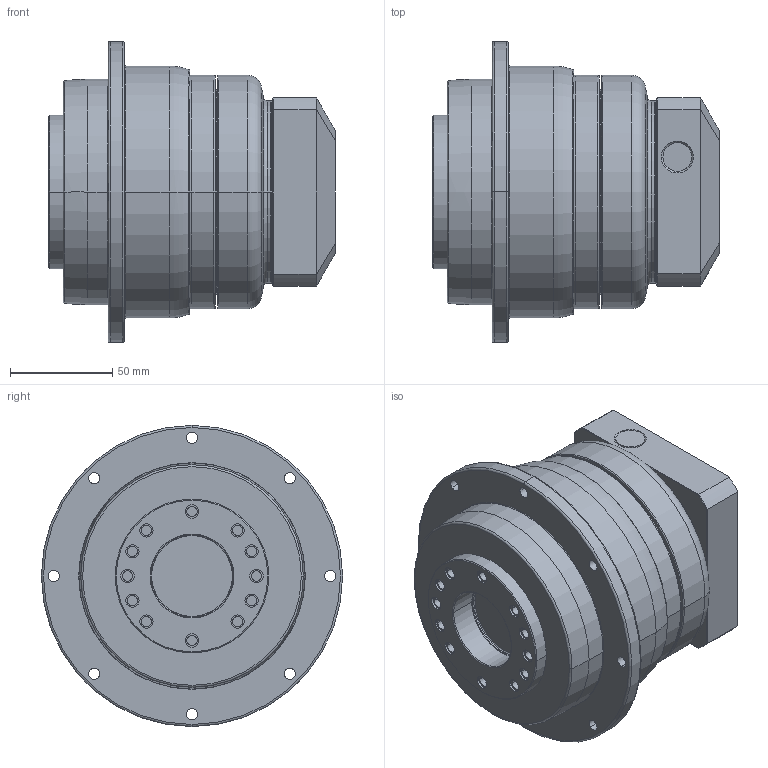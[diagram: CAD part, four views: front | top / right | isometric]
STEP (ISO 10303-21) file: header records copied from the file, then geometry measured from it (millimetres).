
FILE_DESCRIPTION((''),'2;1');
FILE_NAME('PD110_1ST_19-P0411400101_ASM','2016-06-02T',('d01943'),(''),'PRO/ENGINEER BY PARAMETRIC TECHNOLOGY CORPORATION, 2008410','PRO/ENGINEER BY PARAMETRIC TECHNOLOGY CORPORATION, 2008410','');
FILE_SCHEMA(('CONFIG_CONTROL_DESIGN'));
Length unit declared in the file: millimetre
Products named in the file (8): P1355400001; P0367400001; P0274400001; P1324400001; P0411400101; P0503400008; P0941400001; PD110_1ST_19-P0411400101_ASM
Assembly tree (7 placements, depth 2):
  PD110_1ST_19-P0411400101_ASM
    P1355400001
    P0367400001
    P0274400001
    P1324400001
    P0411400101
    P0503400008
    P0941400001
Bounding box: 139.93 x 147 x 147 mm (x, y, z)
Volume: 1265276.5 mm3; surface area: 196286.8 mm2
Topology: 7 solids, 7 shells, 393 faces, 903 edges, 537 vertices
Faces by surface type: cylinder 149, cone 92, plane 70, torus 68, bspline 14
Entity records: 15761 total; most frequent: CARTESIAN_POINT 6568, DIRECTION 2060, ORIENTED_EDGE 1758, AXIS2_PLACEMENT_3D 882, EDGE_CURVE 879, VERTEX_POINT 537, CIRCLE 488, EDGE_LOOP 478
